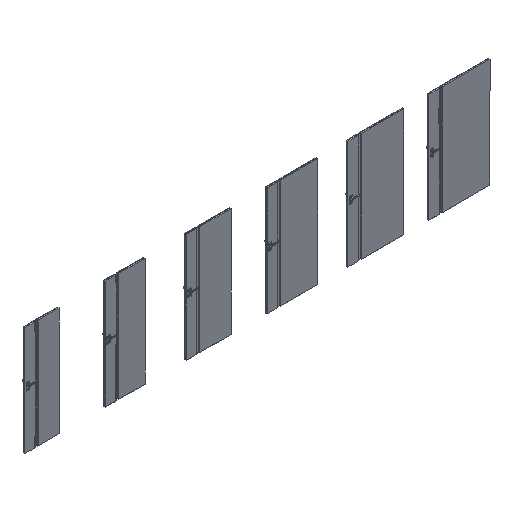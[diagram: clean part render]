
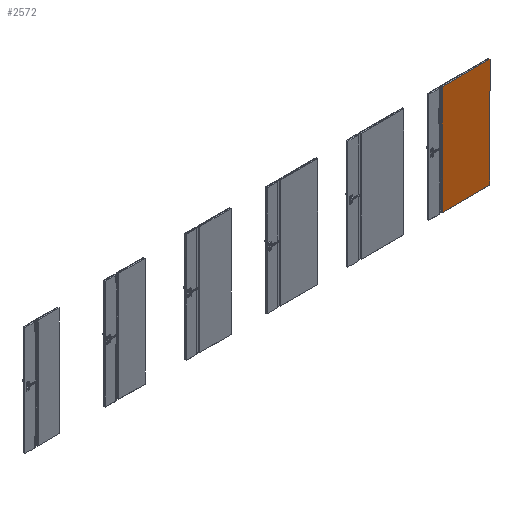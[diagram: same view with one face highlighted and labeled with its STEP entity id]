
A CAD part, isometric view. The second image highlights one B-rep face of the part: STEP entity #2572.
In plain terms, the highlighted planar face has unit normal (0, -1, 0).
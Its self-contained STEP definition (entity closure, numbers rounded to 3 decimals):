
#2572=ADVANCED_FACE('',(#4246),#3580,.F.);
#3580=PLANE('',#19013);
#4246=FACE_OUTER_BOUND('',#5386,.T.);
#5386=EDGE_LOOP('',(#8030,#8031,#8032,#8033));
#8030=ORIENTED_EDGE('',*,*,#13815,.T.);
#8031=ORIENTED_EDGE('',*,*,#13836,.T.);
#8032=ORIENTED_EDGE('',*,*,#13837,.F.);
#8033=ORIENTED_EDGE('',*,*,#13832,.F.);
#11939=VERTEX_POINT('',#29039);
#11940=VERTEX_POINT('',#29041);
#11947=VERTEX_POINT('',#29068);
#11949=VERTEX_POINT('',#29076);
#13815=EDGE_CURVE('',#11940,#11939,#16125,.T.);
#13832=EDGE_CURVE('',#11940,#11947,#16142,.T.);
#13836=EDGE_CURVE('',#11939,#11949,#16146,.T.);
#13837=EDGE_CURVE('',#11947,#11949,#16147,.T.);
#16125=LINE('',#29040,#17625);
#16142=LINE('',#29067,#17642);
#16146=LINE('',#29075,#17646);
#16147=LINE('',#29077,#17647);
#17625=VECTOR('',#21862,1.);
#17642=VECTOR('',#21885,1.);
#17646=VECTOR('',#21893,1.);
#17647=VECTOR('',#21894,1.);
#19013=AXIS2_PLACEMENT_3D('',#29078,#21895,#21896);
#21862=DIRECTION('',(0.,0.,-1.));
#21885=DIRECTION('',(1.,0.,0.));
#21893=DIRECTION('',(1.,0.,0.));
#21894=DIRECTION('',(0.,0.,-1.));
#21895=DIRECTION('',(0.,1.,0.));
#21896=DIRECTION('',(-1.,0.,0.));
#29039=CARTESIAN_POINT('',(7430.5,-39.3,2.));
#29040=CARTESIAN_POINT('',(7430.5,-39.3,2027.));
#29041=CARTESIAN_POINT('',(7430.5,-39.3,2027.));
#29067=CARTESIAN_POINT('',(7430.5,-39.3,2027.));
#29068=CARTESIAN_POINT('',(8319.5,-39.3,2027.));
#29075=CARTESIAN_POINT('',(7430.5,-39.3,2.));
#29076=CARTESIAN_POINT('',(8319.5,-39.3,2.));
#29077=CARTESIAN_POINT('',(8319.5,-39.3,2027.));
#29078=CARTESIAN_POINT('',(7430.5,-39.3,2027.));
